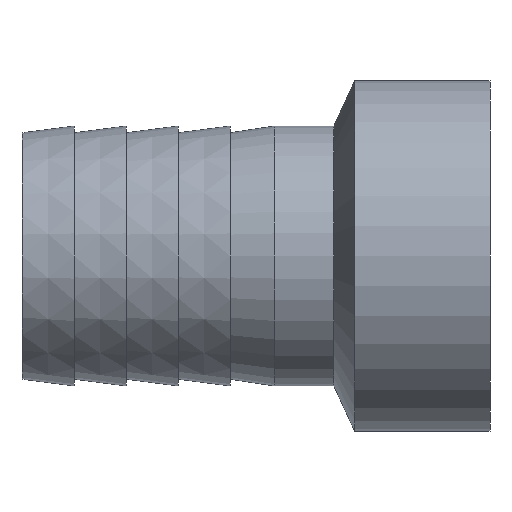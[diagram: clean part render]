
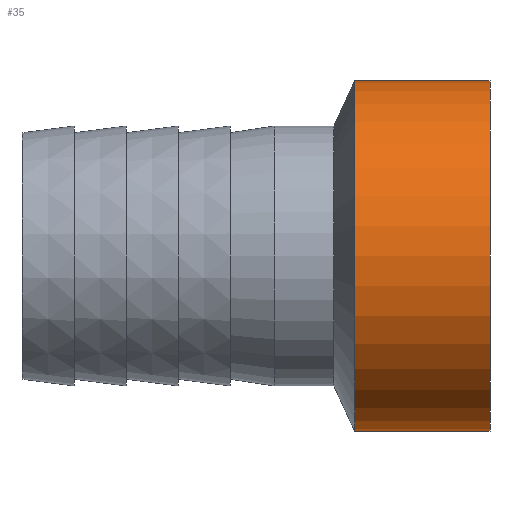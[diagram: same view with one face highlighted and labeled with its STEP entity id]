
A CAD part, front view. The second image highlights one B-rep face of the part: STEP entity #35.
In plain terms, the highlighted cylindrical face has radius 16.85 mm (diameter 33.7 mm), a partial arc.
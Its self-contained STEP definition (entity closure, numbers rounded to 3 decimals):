
#6 = DIRECTION ( 'NONE',  ( -1., 0., 0. ) ) ;
#9 = ORIENTED_EDGE ( 'NONE', *, *, #410, .F. ) ;
#35 = ADVANCED_FACE ( 'NONE', ( #538 ), #736, .T. ) ;
#40 = CIRCLE ( 'NONE', #317, 16.85 ) ;
#47 = VERTEX_POINT ( 'NONE', #472 ) ;
#61 = VERTEX_POINT ( 'NONE', #676 ) ;
#72 = LINE ( 'NONE', #643, #690 ) ;
#135 = DIRECTION ( 'NONE',  ( -1., 0., 0. ) ) ;
#175 = DIRECTION ( 'NONE',  ( 0., 0., 1. ) ) ;
#211 = EDGE_CURVE ( 'NONE', #531, #61, #437, .T. ) ;
#221 = LINE ( 'NONE', #470, #371 ) ;
#223 = DIRECTION ( 'NONE',  ( -1., 0., 0. ) ) ;
#255 = DIRECTION ( 'NONE',  ( 0., 0., 1. ) ) ;
#302 = DIRECTION ( 'NONE',  ( -1., 0., 0. ) ) ;
#308 = CARTESIAN_POINT ( 'NONE',  ( 13.99, 0., 0. ) ) ;
#317 = AXIS2_PLACEMENT_3D ( 'NONE', #705, #6, #767 ) ;
#342 = DIRECTION ( 'NONE',  ( -1., 0., 0. ) ) ;
#356 = CARTESIAN_POINT ( 'NONE',  ( -136.599, 0., 0. ) ) ;
#371 = VECTOR ( 'NONE', #223, 1000. ) ;
#410 = EDGE_CURVE ( 'NONE', #531, #47, #72, .T. ) ;
#437 = CIRCLE ( 'NONE', #751, 16.85 ) ;
#470 = CARTESIAN_POINT ( 'NONE',  ( -136.599, 0., 16.85 ) ) ;
#472 = CARTESIAN_POINT ( 'NONE',  ( 0.99, 0., -16.85 ) ) ;
#477 = CARTESIAN_POINT ( 'NONE',  ( 0.99, 0., 16.85 ) ) ;
#506 = EDGE_CURVE ( 'NONE', #61, #512, #221, .T. ) ;
#512 = VERTEX_POINT ( 'NONE', #477 ) ;
#531 = VERTEX_POINT ( 'NONE', #678 ) ;
#538 = FACE_OUTER_BOUND ( 'NONE', #609, .T. ) ;
#609 = EDGE_LOOP ( 'NONE', ( #9, #805, #655, #664 ) ) ;
#643 = CARTESIAN_POINT ( 'NONE',  ( -136.599, 0., -16.85 ) ) ;
#655 = ORIENTED_EDGE ( 'NONE', *, *, #506, .T. ) ;
#664 = ORIENTED_EDGE ( 'NONE', *, *, #765, .F. ) ;
#676 = CARTESIAN_POINT ( 'NONE',  ( 13.99, 0., 16.85 ) ) ;
#678 = CARTESIAN_POINT ( 'NONE',  ( 13.99, 0., -16.85 ) ) ;
#690 = VECTOR ( 'NONE', #342, 1000. ) ;
#705 = CARTESIAN_POINT ( 'NONE',  ( 0.99, 0., 0. ) ) ;
#717 = AXIS2_PLACEMENT_3D ( 'NONE', #356, #302, #175 ) ;
#736 = CYLINDRICAL_SURFACE ( 'NONE', #717, 16.85 ) ;
#751 = AXIS2_PLACEMENT_3D ( 'NONE', #308, #135, #255 ) ;
#765 = EDGE_CURVE ( 'NONE', #47, #512, #40, .T. ) ;
#767 = DIRECTION ( 'NONE',  ( 0., 0., 1. ) ) ;
#805 = ORIENTED_EDGE ( 'NONE', *, *, #211, .T. ) ;
